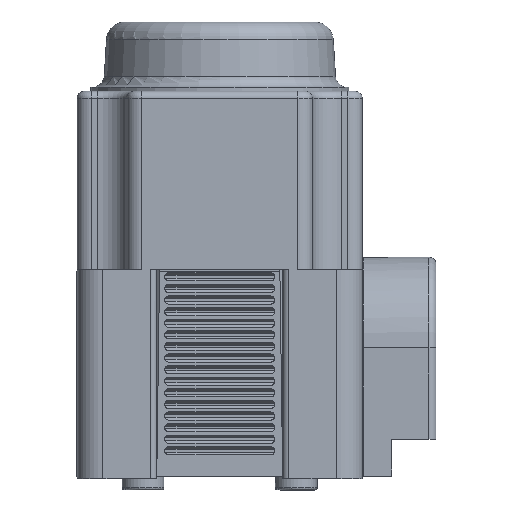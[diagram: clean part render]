
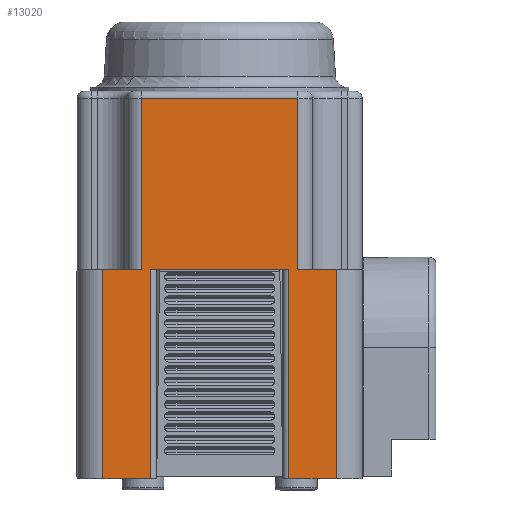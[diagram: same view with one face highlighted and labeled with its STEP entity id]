
A CAD part, left-side view. The second image highlights one B-rep face of the part: STEP entity #13020.
In plain terms, the highlighted planar face has unit normal (-1, 0, 0).
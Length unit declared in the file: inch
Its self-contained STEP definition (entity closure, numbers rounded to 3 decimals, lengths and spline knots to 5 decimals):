
#512=PLANE('',#14522);
#1435=FACE_OUTER_BOUND('',#2223,.T.);
#2223=EDGE_LOOP('',(#11179,#11180,#11181,#11182,#11183,#11184,#11185,#11186,
#11187,#11188,#11189,#11190));
#3664=LINE('',#26286,#4498);
#3677=LINE('',#26356,#4511);
#3793=LINE('',#27929,#4627);
#3810=LINE('',#27988,#4644);
#3811=LINE('',#27992,#4645);
#3814=LINE('',#28011,#4648);
#3827=LINE('',#28087,#4661);
#3828=LINE('',#28091,#4662);
#3829=LINE('',#28092,#4663);
#3830=LINE('',#28094,#4664);
#3831=LINE('',#28096,#4665);
#3832=LINE('',#28097,#4666);
#4498=VECTOR('',#17705,0.3937);
#4511=VECTOR('',#17788,0.3937);
#4627=VECTOR('',#18098,0.3937);
#4644=VECTOR('',#18169,0.3937);
#4645=VECTOR('',#18174,0.3937);
#4648=VECTOR('',#18195,0.3937);
#4661=VECTOR('',#18296,0.3937);
#4662=VECTOR('',#18301,0.3937);
#4663=VECTOR('',#18302,0.3937);
#4664=VECTOR('',#18303,0.3937);
#4665=VECTOR('',#18304,0.3937);
#4666=VECTOR('',#18305,0.3937);
#5668=VERTEX_POINT('',#26278);
#5670=VERTEX_POINT('',#26284);
#5692=VERTEX_POINT('',#26354);
#5822=VERTEX_POINT('',#27926);
#5823=VERTEX_POINT('',#27928);
#5838=VERTEX_POINT('',#27987);
#5839=VERTEX_POINT('',#27991);
#5846=VERTEX_POINT('',#28009);
#5865=VERTEX_POINT('',#28086);
#5866=VERTEX_POINT('',#28090);
#5867=VERTEX_POINT('',#28093);
#5868=VERTEX_POINT('',#28095);
#7355=EDGE_CURVE('',#5670,#5668,#3664,.T.);
#7391=EDGE_CURVE('',#5692,#5670,#3677,.T.);
#7593=EDGE_CURVE('',#5823,#5822,#3793,.T.);
#7622=EDGE_CURVE('',#5838,#5668,#3810,.T.);
#7624=EDGE_CURVE('',#5839,#5838,#3811,.T.);
#7634=EDGE_CURVE('',#5692,#5846,#3814,.T.);
#7672=EDGE_CURVE('',#5865,#5823,#3827,.T.);
#7674=EDGE_CURVE('',#5866,#5846,#3828,.T.);
#7675=EDGE_CURVE('',#5865,#5866,#3829,.T.);
#7676=EDGE_CURVE('',#5867,#5822,#3830,.T.);
#7677=EDGE_CURVE('',#5867,#5868,#3831,.T.);
#7678=EDGE_CURVE('',#5868,#5839,#3832,.T.);
#11179=ORIENTED_EDGE('',*,*,#7355,.F.);
#11180=ORIENTED_EDGE('',*,*,#7391,.F.);
#11181=ORIENTED_EDGE('',*,*,#7634,.T.);
#11182=ORIENTED_EDGE('',*,*,#7674,.F.);
#11183=ORIENTED_EDGE('',*,*,#7675,.F.);
#11184=ORIENTED_EDGE('',*,*,#7672,.T.);
#11185=ORIENTED_EDGE('',*,*,#7593,.T.);
#11186=ORIENTED_EDGE('',*,*,#7676,.F.);
#11187=ORIENTED_EDGE('',*,*,#7677,.T.);
#11188=ORIENTED_EDGE('',*,*,#7678,.T.);
#11189=ORIENTED_EDGE('',*,*,#7624,.T.);
#11190=ORIENTED_EDGE('',*,*,#7622,.T.);
#13020=ADVANCED_FACE('',(#1435),#512,.T.);
#14522=AXIS2_PLACEMENT_3D('',#28089,#18299,#18300);
#17705=DIRECTION('',(0.,-1.,0.));
#17788=DIRECTION('',(0.,0.,1.));
#18098=DIRECTION('',(0.,-1.,0.));
#18169=DIRECTION('',(0.,0.,1.));
#18174=DIRECTION('',(0.,1.,0.));
#18195=DIRECTION('',(0.,1.,0.));
#18296=DIRECTION('',(0.,0.,1.));
#18299=DIRECTION('center_axis',(-1.,0.,0.));
#18300=DIRECTION('ref_axis',(0.,0.,1.));
#18301=DIRECTION('',(0.,0.,1.));
#18302=DIRECTION('',(0.,1.,0.));
#18303=DIRECTION('',(0.,0.,1.));
#18304=DIRECTION('',(0.,-1.,0.));
#18305=DIRECTION('',(0.,0.,1.));
#26278=CARTESIAN_POINT('',(-0.67445,-0.31053,0.6733));
#26284=CARTESIAN_POINT('',(-0.67445,0.35747,0.6733));
#26286=CARTESIAN_POINT('',(-0.67445,0.35747,0.6733));
#26354=CARTESIAN_POINT('',(-0.67445,0.35747,-0.0587));
#26356=CARTESIAN_POINT('',(-0.67445,0.35747,-0.0587));
#27926=CARTESIAN_POINT('',(-0.67445,-0.27053,-0.0587));
#27928=CARTESIAN_POINT('',(-0.67445,0.31747,-0.0587));
#27929=CARTESIAN_POINT('',(-0.67445,0.31747,-0.0587));
#27987=CARTESIAN_POINT('',(-0.67445,-0.31053,-0.0587));
#27988=CARTESIAN_POINT('',(-0.67445,-0.31053,-0.0587));
#27991=CARTESIAN_POINT('',(-0.67445,-0.47553,-0.0587));
#27992=CARTESIAN_POINT('',(-0.67445,-0.47553,-0.0587));
#28009=CARTESIAN_POINT('',(-0.67445,0.52247,-0.0587));
#28011=CARTESIAN_POINT('',(-0.67445,0.35747,-0.0587));
#28086=CARTESIAN_POINT('',(-0.67445,0.31747,-0.9527));
#28087=CARTESIAN_POINT('',(-0.67445,0.31747,-0.9527));
#28089=CARTESIAN_POINT('Origin',(-0.67445,-0.47593,
-0.1397));
#28090=CARTESIAN_POINT('',(-0.67445,0.52247,-0.9527));
#28091=CARTESIAN_POINT('',(-0.67445,0.52247,-0.9527));
#28092=CARTESIAN_POINT('',(-0.67445,0.31747,-0.9527));
#28093=CARTESIAN_POINT('',(-0.67445,-0.27053,-0.9527));
#28094=CARTESIAN_POINT('',(-0.67445,-0.27053,-0.9527));
#28095=CARTESIAN_POINT('',(-0.67445,-0.47553,-0.9527));
#28096=CARTESIAN_POINT('',(-0.67445,-0.27053,-0.9527));
#28097=CARTESIAN_POINT('',(-0.67445,-0.47553,-0.9527));
